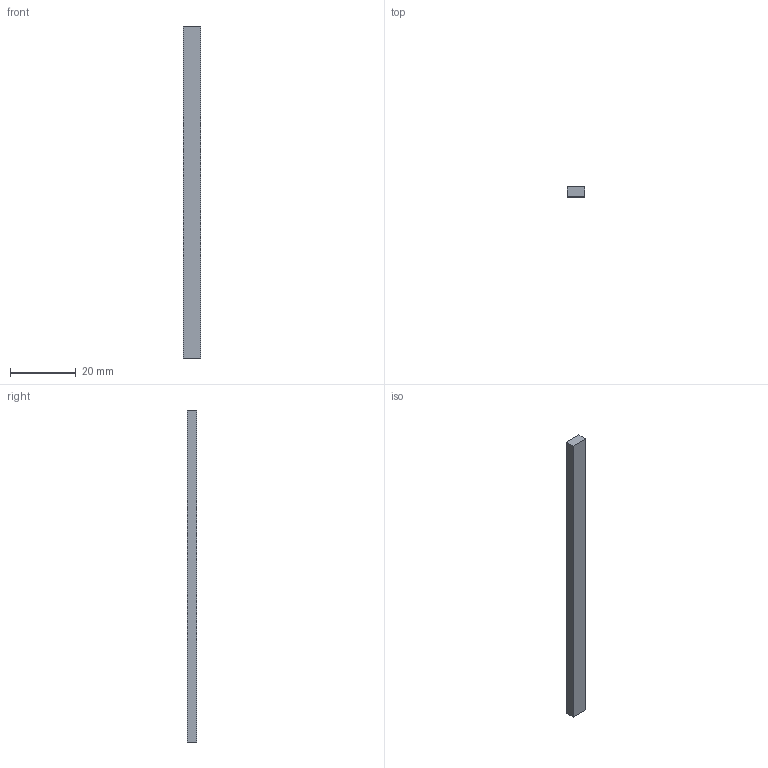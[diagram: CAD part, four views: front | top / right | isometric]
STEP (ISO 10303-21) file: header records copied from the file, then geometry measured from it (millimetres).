
FILE_DESCRIPTION (( 'STEP AP214' ), '1' );
FILE_NAME ('LS1510B_DriveRod_100,8-PiezoMotor.STEP', '2017-06-07T12:29:56', ( '' ), ( '' ), 'SwSTEP 2.0', 'SolidWorks 2016', '' );
FILE_SCHEMA (( 'AUTOMOTIVE_DESIGN' ));
Length unit declared in the file: millimetre
Products named in the file (2): LS1510B_DriveRod_100,8-PiezoMotor
Bounding box: 5.3 x 3 x 100.8 mm (x, y, z)
Volume: 1602.7 mm3; surface area: 1705.1 mm2
Topology: 1 solids, 1 shells, 6 faces, 12 edges, 8 vertices
Faces by surface type: plane 6
Entity records: 205 total; most frequent: DIRECTION 28, CARTESIAN_POINT 28, ORIENTED_EDGE 24, VECTOR 12, EDGE_CURVE 12, LINE 12, VERTEX_POINT 8, AXIS2_PLACEMENT_3D 8
